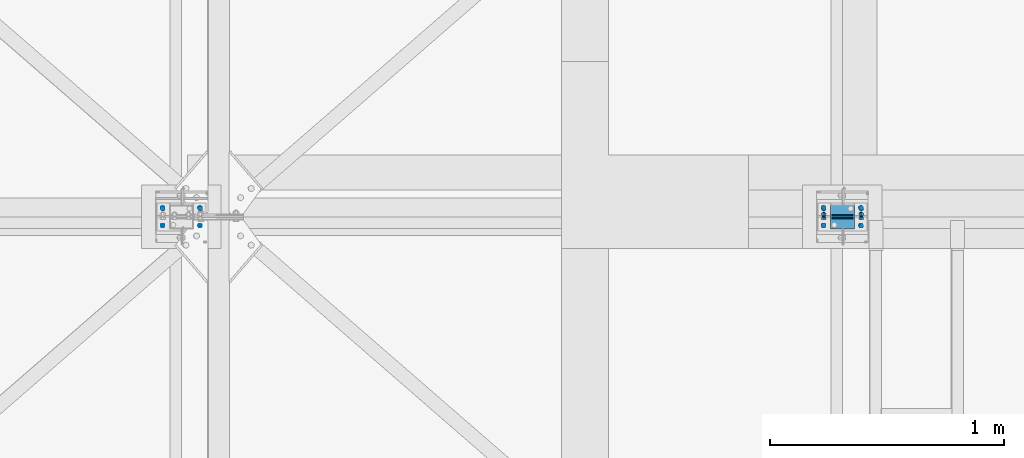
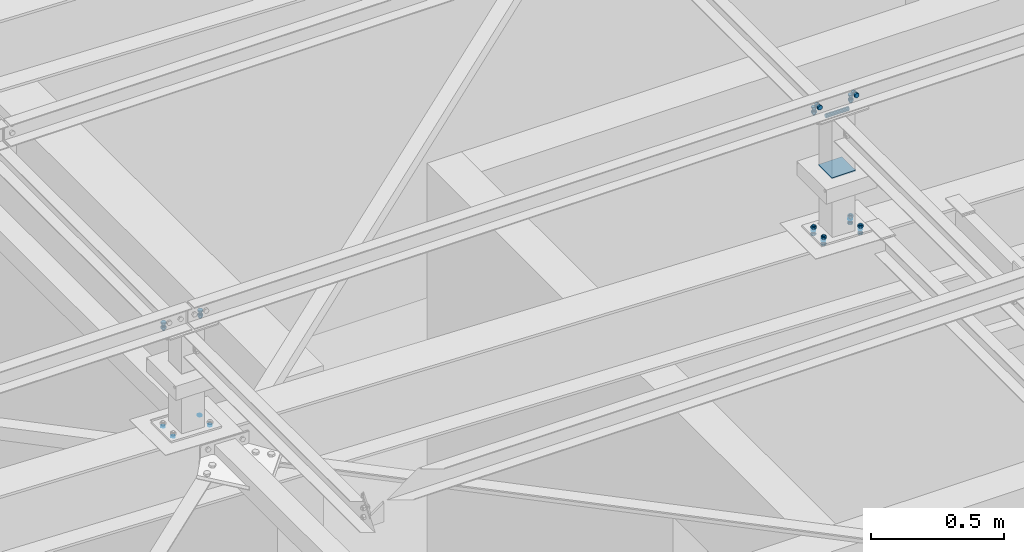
# One storey, part 244 of 3134: 8 mechanical fasteners, 6 elements without a shape of their own.
"""IFC2X3 building model written with IfcOpenShell, lengths in millimetres."""

from ifc_helpers import new_model, si_unit, frame, origin_with_axes, place, context, subcontext, project, spatial, faceted_brep, source, transform, mapped, material, type_object, element, aggregate, save


model = new_model("IFC2X3")

# Units and contexts
model_context = context("Model", 3, precision=1e-05, world=origin_with_axes())
body_context = subcontext(model_context, "Body", "Model", "MODEL_VIEW")
ifc_project = project(units=[si_unit("LENGTHUNIT", "METRE", prefix="MILLI"), si_unit("AREAUNIT", "SQUARE_METRE"), si_unit("VOLUMEUNIT", "CUBIC_METRE"), si_unit("MASSUNIT", "GRAM", prefix="KILO"), si_unit("TIMEUNIT", "SECOND"), si_unit("PLANEANGLEUNIT", "RADIAN"), si_unit("SOLIDANGLEUNIT", "STERADIAN"), si_unit("THERMODYNAMICTEMPERATUREUNIT", "DEGREE_CELSIUS"), si_unit("LUMINOUSINTENSITYUNIT", "LUMEN")], contexts=[model_context])

# Site, building, storey
site_placement = place(None, origin_with_axes())
site = spatial("IfcSite", under=ifc_project, at=site_placement, CompositionType="ELEMENT")
building_placement = place(site_placement, origin_with_axes())
building = spatial("IfcBuilding", under=site, at=building_placement, Name="Undefined", CompositionType="ELEMENT")
storey_placement = place(building_placement, origin_with_axes())
storey = spatial("IfcBuildingStorey", under=building, at=storey_placement, Name="Undefined", CompositionType="ELEMENT", Elevation=0.0)

# Assembly, mechanical fastener
assembly_1_placement = place(storey_placement, origin_with_axes())
assembly_1 = element("IfcElementAssembly", 1, at=assembly_1_placement, inside=storey, AssemblyPlace="NOTDEFINED", PredefinedType="RIGID_FRAME")
ifc_material_1 = material(Name="8.8")
mechanical_fastener_type = type_object("IfcMechanicalFastenerType", Name="Bolt assembly")
shared_shape_1 = source(origin_with_axes(), body_context, "Body", "Brep", [
    faceted_brep([(10.9696551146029, -14.0, 0.0), (5.48482755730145, -14.0, 9.5), (-5.48482755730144, -14.0, 9.5), (-10.9696551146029, -14.0, 1.34339530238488e-15), (-5.48482755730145, -14.0, -9.5), (5.48482755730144, -14.0, -9.50000000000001), (5.48482755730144, -6.0, -9.50000000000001), (-5.48482755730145, -6.0, -9.5), (-10.9696551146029, -6.0, 1.34339530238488e-15), (-5.48482755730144, -6.0, 9.5), (5.48482755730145, -6.0, 9.5), (10.9696551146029, -6.0, 0.0), (6.0, -6.0, 0.0), (5.19615242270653, -6.0, 3.00000000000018), (2.99999999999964, -6.0, 5.19615242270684), (-6.21801588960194e-13, -6.0, 6.0), (-3.00000000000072, -6.0, 5.19615242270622), (-5.19615242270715, -6.0, 2.9999999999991), (-6.0, -6.0, -1.24360317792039e-12), (-5.19615242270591, -6.0, -3.00000000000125), (-2.99999999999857, -6.0, -5.19615242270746), (1.85874342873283e-12, -6.0, -6.0), (3.00000000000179, -6.0, -5.1961524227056), (5.19615242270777, -6.0, -2.99999999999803), (5.19615242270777, 24.0, -2.99999999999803), (3.00000000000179, 24.0, -5.1961524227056), (1.85874342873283e-12, 24.0, -6.0), (-2.99999999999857, 24.0, -5.19615242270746), (-5.19615242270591, 24.0, -3.00000000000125), (-6.0, 24.0, -1.24360317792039e-12), (-5.19615242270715, 24.0, 2.9999999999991), (-3.00000000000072, 24.0, 5.19615242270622), (-6.21801588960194e-13, 24.0, 6.0), (2.99999999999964, 24.0, 5.19615242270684), (5.19615242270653, 24.0, 3.00000000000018), (6.0, 24.0, 0.0), (10.9696551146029, 6.00000000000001, 0.0), (5.48482755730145, 6.00000000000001, 9.5), (-5.48482755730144, 6.00000000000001, 9.5), (-10.9696551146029, 6.00000000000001, 1.34339530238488e-15), (-5.48482755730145, 6.00000000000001, -9.5), (5.48482755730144, 6.00000000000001, -9.50000000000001), (5.48482755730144, 16.0, -9.50000000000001), (-5.48482755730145, 16.0, -9.5), (-10.9696551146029, 16.0, 1.34339530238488e-15), (-5.48482755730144, 16.0, 9.5), (5.48482755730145, 16.0, 9.5), (10.9696551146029, 16.0, 0.0)], [[[0, 1, 2, 3, 4, 5]], [[6, 7, 8, 9, 10, 11]], [[0, 11, 10, 1]], [[1, 10, 9, 2]], [[2, 9, 8, 3]], [[3, 8, 7, 4]], [[4, 7, 6, 5]], [[5, 6, 11, 0]], [[12, 13, 14, 15, 16, 17, 18, 19, 20, 21, 22, 23]], [[24, 25, 26, 27, 28, 29, 30, 31, 32, 33, 34, 35]], [[12, 35, 34, 13]], [[13, 34, 33, 14]], [[14, 33, 32, 15]], [[15, 32, 31, 16]], [[16, 31, 30, 17]], [[17, 30, 29, 18]], [[18, 29, 28, 19]], [[19, 28, 27, 20]], [[20, 27, 26, 21]], [[21, 26, 25, 22]], [[22, 25, 24, 23]], [[23, 24, 35, 12]], [[36, 37, 38, 39, 40, 41]], [[42, 43, 44, 45, 46, 47]], [[36, 47, 46, 37]], [[37, 46, 45, 38]], [[38, 45, 44, 39]], [[39, 44, 43, 40]], [[40, 43, 42, 41]], [[41, 42, 47, 36]]]),
    faceted_brep([(7.0, -0.1, 0.0), (6.06217782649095, -0.1, 3.50000000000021), (3.49999999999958, -0.1, 6.06217782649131), (-7.25435187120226e-13, -0.1, 7.0), (-3.50000000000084, -0.1, 6.06217782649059), (-6.06217782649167, -0.1, 3.49999999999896), (-7.0, -0.1, -1.45087037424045e-12), (-6.06217782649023, -0.1, -3.50000000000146), (-3.49999999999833, -0.1, -6.06217782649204), (2.1685340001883e-12, -0.1, -7.0), (3.50000000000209, -0.1, -6.06217782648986), (6.0621778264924, -0.1, -3.4999999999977), (6.0621778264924, 6.00000000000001, -3.4999999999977), (3.50000000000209, 6.00000000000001, -6.06217782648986), (2.1685340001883e-12, 6.00000000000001, -7.0), (-3.49999999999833, 6.00000000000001, -6.06217782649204), (-6.06217782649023, 6.00000000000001, -3.50000000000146), (-7.0, 6.00000000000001, -1.45087037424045e-12), (-6.06217782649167, 6.00000000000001, 3.49999999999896), (-3.50000000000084, 6.00000000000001, 6.06217782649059), (-7.25435187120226e-13, 6.00000000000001, 7.0), (3.49999999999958, 6.00000000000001, 6.06217782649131), (6.06217782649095, 6.00000000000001, 3.50000000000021), (7.0, 6.00000000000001, 0.0), (7.0, -5.9, 0.0), (6.06217782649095, -5.9, 3.50000000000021), (3.49999999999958, -5.9, 6.06217782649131), (-7.25435187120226e-13, -5.9, 7.0), (-3.50000000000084, -5.9, 6.06217782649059), (-6.06217782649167, -5.9, 3.49999999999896), (-7.0, -5.9, -1.45087037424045e-12), (-6.06217782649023, -5.9, -3.50000000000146), (-3.49999999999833, -5.9, -6.06217782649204), (2.1685340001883e-12, -5.9, -7.0), (3.50000000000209, -5.9, -6.06217782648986), (6.0621778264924, -5.9, -3.4999999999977), (6.0621778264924, 0.0999999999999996, -3.4999999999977), (3.50000000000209, 0.0999999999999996, -6.06217782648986), (2.1685340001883e-12, 0.0999999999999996, -7.0), (-3.49999999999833, 0.0999999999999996, -6.06217782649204), (-6.06217782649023, 0.0999999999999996, -3.50000000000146), (-7.0, 0.0999999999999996, -1.45087037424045e-12), (-6.06217782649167, 0.0999999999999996, 3.49999999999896), (-3.50000000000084, 0.0999999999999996, 6.06217782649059), (-7.25435187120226e-13, 0.0999999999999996, 7.0), (3.49999999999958, 0.0999999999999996, 6.06217782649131), (6.06217782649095, 0.0999999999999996, 3.50000000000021), (7.0, 0.0999999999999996, 0.0)], [[[0, 1, 2, 3, 4, 5, 6, 7, 8, 9, 10, 11]], [[12, 13, 14, 15, 16, 17, 18, 19, 20, 21, 22, 23]], [[0, 23, 22, 1]], [[1, 22, 21, 2]], [[2, 21, 20, 3]], [[3, 20, 19, 4]], [[4, 19, 18, 5]], [[5, 18, 17, 6]], [[6, 17, 16, 7]], [[7, 16, 15, 8]], [[8, 15, 14, 9]], [[9, 14, 13, 10]], [[10, 13, 12, 11]], [[11, 12, 23, 0]], [[24, 25, 26, 27, 28, 29, 30, 31, 32, 33, 34, 35]], [[36, 37, 38, 39, 40, 41, 42, 43, 44, 45, 46, 47]], [[24, 47, 46, 25]], [[25, 46, 45, 26]], [[26, 45, 44, 27]], [[27, 44, 43, 28]], [[28, 43, 42, 29]], [[29, 42, 41, 30]], [[30, 41, 40, 31]], [[31, 40, 39, 32]], [[32, 39, 38, 33]], [[33, 38, 37, 34]], [[34, 37, 36, 35]], [[35, 36, 47, 24]]]),
])
mechanical_fastener_1_placement = place(assembly_1_placement, frame((26019.0, 61020.0, 10865.0), z_axis=(1.0, 0.0, 0.0), x_axis=(0.0, -1.0, 0.0)))
mechanical_fastener_1 = element("IfcMechanicalFastener", 2, at=mechanical_fastener_1_placement, type_object=mechanical_fastener_type, material=ifc_material_1, Name="Bolt assembly", NominalDiameter=12.0, NominalLength=30.0, context=body_context, shape_type="MappedRepresentation", body=[
    mapped(shared_shape_1, transform((0.0, -5.32963895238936e-10, -79.9999999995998))),
    mapped(shared_shape_1, transform((0.0, 5.3114490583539e-10, 79.9999999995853))),
])
aggregate(assembly_1, [mechanical_fastener_1])

assembly_2_placement = place(storey_placement, origin_with_axes())
assembly_2 = element("IfcElementAssembly", 3, at=assembly_2_placement, inside=storey, AssemblyPlace="NOTDEFINED", PredefinedType="RIGID_FRAME")
mechanical_fastener_2_placement = place(assembly_2_placement, frame((28847.0, 61020.0, 10865.0), z_axis=(1.0, 0.0, 0.0), x_axis=(0.0, -1.0, 0.0)))
mechanical_fastener_2 = element("IfcMechanicalFastener", 4, at=mechanical_fastener_2_placement, type_object=mechanical_fastener_type, material=ifc_material_1, Name="Bolt assembly", NominalDiameter=12.0, NominalLength=30.0, context=body_context, shape_type="MappedRepresentation", body=[
    mapped(shared_shape_1, transform((0.0, -5.32963895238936e-10, -79.9999999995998))),
    mapped(shared_shape_1, transform((0.0, 5.3114490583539e-10, 79.9999999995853))),
])

assembly_3_placement = place(storey_placement, origin_with_axes())
assembly_3 = element("IfcElementAssembly", 5, at=assembly_3_placement, inside=storey, AssemblyPlace="NOTDEFINED", PredefinedType="RIGID_FRAME")
shared_shape_2 = source(origin_with_axes(), body_context, "Body", "Brep", [
    faceted_brep([(7.0, 13.0000253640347, 0.0), (6.06217782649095, 13.0000253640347, 3.50000000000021), (3.49999999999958, 13.0000253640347, 6.06217782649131), (-7.25435187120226e-13, 13.0000253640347, 7.0), (-3.50000000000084, 13.0000253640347, 6.06217782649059), (-6.06217782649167, 13.0000253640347, 3.49999999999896), (-7.0, 13.0000253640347, -1.45087037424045e-12), (-6.06217782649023, 13.0000253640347, -3.50000000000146), (-3.49999999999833, 13.0000253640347, -6.06217782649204), (2.1685340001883e-12, 13.0000253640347, -7.0), (3.50000000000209, 13.0000253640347, -6.06217782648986), (6.0621778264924, 13.0000253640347, -3.4999999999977), (6.0621778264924, 15.0999999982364, -3.4999999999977), (3.50000000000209, 15.0999999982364, -6.06217782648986), (2.1685340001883e-12, 15.0999999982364, -7.0), (-3.49999999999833, 15.0999999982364, -6.06217782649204), (-6.06217782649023, 15.0999999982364, -3.50000000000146), (-7.0, 15.0999999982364, -1.45087037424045e-12), (-6.06217782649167, 15.0999999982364, 3.49999999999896), (-3.50000000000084, 15.0999999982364, 6.06217782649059), (-7.25435187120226e-13, 15.0999999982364, 7.0), (3.49999999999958, 15.0999999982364, 6.06217782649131), (6.06217782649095, 15.0999999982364, 3.50000000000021), (7.0, 15.0999999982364, 0.0)], [[[0, 1, 2, 3, 4, 5, 6, 7, 8, 9, 10, 11]], [[12, 13, 14, 15, 16, 17, 18, 19, 20, 21, 22, 23]], [[0, 23, 22, 1]], [[1, 22, 21, 2]], [[2, 21, 20, 3]], [[3, 20, 19, 4]], [[4, 19, 18, 5]], [[5, 18, 17, 6]], [[6, 17, 16, 7]], [[7, 16, 15, 8]], [[8, 15, 14, 9]], [[9, 14, 13, 10]], [[10, 13, 12, 11]], [[11, 12, 23, 0]]]),
])
mechanical_fastener_3_placement = place(assembly_3_placement, frame((26018.2251187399, 61023.0, 10379.5372055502), z_axis=(-0.99951962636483, 0.0, 0.0309922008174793), x_axis=(0.0, -1.0, 0.0)))
mechanical_fastener_3 = element("IfcMechanicalFastener", 6, at=mechanical_fastener_3_placement, type_object=mechanical_fastener_type, material=ifc_material_1, Name="Bolt assembly", NominalDiameter=12.0, NominalLength=2.0, context=body_context, shape_type="MappedRepresentation", body=[
    mapped(shared_shape_2, transform((0.0, -5.32963895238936e-10, -79.9999999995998))),
    mapped(shared_shape_2, transform((76.0, -5.32963895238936e-10, -79.9999999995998))),
    mapped(shared_shape_2, transform((0.0, 5.3114490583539e-10, 79.9999999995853))),
    mapped(shared_shape_2, transform((76.0, 5.3114490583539e-10, 79.9999999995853))),
])
aggregate(assembly_3, [mechanical_fastener_3])

assembly_4_placement = place(storey_placement, origin_with_axes())
assembly_4 = element("IfcElementAssembly", 7, at=assembly_4_placement, inside=storey, AssemblyPlace="NOTDEFINED", PredefinedType="RIGID_FRAME")
mechanical_fastener_4_placement = place(assembly_4_placement, frame((28846.2851187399, 61023.0, 10291.8572055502), z_axis=(-0.99951962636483, 0.0, 0.0309922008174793), x_axis=(0.0, -1.0, 0.0)))
mechanical_fastener_4 = element("IfcMechanicalFastener", 8, at=mechanical_fastener_4_placement, type_object=mechanical_fastener_type, material=ifc_material_1, Name="Bolt assembly", NominalDiameter=12.0, NominalLength=2.0, context=body_context, shape_type="MappedRepresentation", body=[
    mapped(shared_shape_2, transform((0.0, -5.32963895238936e-10, -79.9999999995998))),
    mapped(shared_shape_2, transform((76.0, -5.32963895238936e-10, -79.9999999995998))),
    mapped(shared_shape_2, transform((0.0, 5.3114490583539e-10, 79.9999999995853))),
    mapped(shared_shape_2, transform((76.0, 5.3114490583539e-10, 79.9999999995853))),
])
aggregate(assembly_4, [mechanical_fastener_4])

# Assembly, mechanical fasteners
assembly_5_placement = place(storey_placement, origin_with_axes())
assembly_5 = element("IfcElementAssembly", 9, at=assembly_5_placement, inside=storey, AssemblyPlace="NOTDEFINED", PredefinedType="RIGID_FRAME")
shared_shape_3 = source(origin_with_axes(), body_context, "Body", "Brep", [
    faceted_brep([(9.0, -50.0, 0.0), (7.79422863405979, -50.0, 4.50000000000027), (4.49999999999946, -50.0, 7.79422863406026), (-9.3270238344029e-13, -50.0, 9.0), (-4.50000000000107, -50.0, 7.79422863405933), (-7.79422863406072, -50.0, 4.49999999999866), (-9.0, -50.0, -1.86540476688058e-12), (-7.79422863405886, -50.0, -4.50000000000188), (-4.49999999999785, -50.0, -7.79422863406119), (2.78811514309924e-12, -50.0, -9.0), (4.50000000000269, -50.0, -7.7942286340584), (7.79422863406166, -50.0, -4.49999999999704), (7.79422863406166, 50.1, -4.49999999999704), (4.50000000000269, 50.1, -7.7942286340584), (2.78811514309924e-12, 50.1, -9.0), (-4.49999999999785, 50.1, -7.79422863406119), (-7.79422863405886, 50.1, -4.50000000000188), (-9.0, 50.1, -1.86540476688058e-12), (-7.79422863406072, 50.1, 4.49999999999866), (-4.50000000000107, 50.1, 7.79422863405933), (-9.3270238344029e-13, 50.1, 9.0), (4.49999999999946, 50.1, 7.79422863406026), (7.79422863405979, 50.1, 4.50000000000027), (9.0, 50.1, 0.0)], [[[0, 1, 2, 3, 4, 5, 6, 7, 8, 9, 10, 11]], [[12, 13, 14, 15, 16, 17, 18, 19, 20, 21, 22, 23]], [[0, 23, 22, 1]], [[1, 22, 21, 2]], [[2, 21, 20, 3]], [[3, 20, 19, 4]], [[4, 19, 18, 5]], [[5, 18, 17, 6]], [[6, 17, 16, 7]], [[7, 16, 15, 8]], [[8, 15, 14, 9]], [[9, 14, 13, 10]], [[10, 13, 12, 11]], [[11, 12, 23, 0]]]),
])
mechanical_fastener_5_placement = place(assembly_5_placement, frame((28847.0, 60985.0, 10845.0), z_axis=(0.0, 1.0, 0.0), x_axis=(0.0, 0.0, 1.0)))
mechanical_fastener_5 = element("IfcMechanicalFastener", 10, at=mechanical_fastener_5_placement, type_object=mechanical_fastener_type, material=ifc_material_1, Name="Bolt assembly", NominalDiameter=16.0, NominalLength=100.0, context=body_context, shape_type="MappedRepresentation", body=[
    mapped(shared_shape_3, transform((0.0, 0.0, 0.0))),
])
ifc_material_2 = material(Name="6.8")
shared_shape_4 = source(origin_with_axes(), body_context, "Body", "Brep", [
    faceted_brep([(51.5, 1.36424205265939e-12, 50.0), (51.3858192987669, 1.36424205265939e-12, 50.5740251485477), (51.0606601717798, 1.36424205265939e-12, 51.0606601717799), (50.5740251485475, 1.36424205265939e-12, 51.385819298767), (-50.0000000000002, 1.36424205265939e-12, 51.5), (-50.7500000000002, 1.36424205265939e-12, 51.2990381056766), (-51.2990381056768, 1.36424205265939e-12, 50.7499999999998), (-51.5, 1.36424205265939e-12, 49.9999999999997), (-51.5, 1.36424205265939e-12, -50.0000000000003), (-51.2990381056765, 1.36424205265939e-12, -50.7500000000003), (-50.7499999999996, 1.36424205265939e-12, -51.2990381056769), (-49.9999999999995, 1.36424205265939e-12, -51.5), (50.0000000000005, 1.36424205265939e-12, -51.5), (50.7500000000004, 1.36424205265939e-12, -51.2990381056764), (51.2990381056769, 1.36424205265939e-12, -50.7499999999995), (51.5, 1.36424205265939e-12, -49.9999999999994), (51.5, 5.10000000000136, -49.9999999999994), (51.2990381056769, 5.10000000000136, -50.7499999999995), (50.7500000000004, 5.10000000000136, -51.2990381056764), (50.0000000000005, 5.10000000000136, -51.5), (-49.9999999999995, 5.10000000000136, -51.5), (-50.7499999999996, 5.10000000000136, -51.2990381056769), (-51.2990381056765, 5.10000000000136, -50.7500000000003), (-51.5, 5.10000000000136, -50.0000000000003), (-51.5, 5.10000000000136, 49.9999999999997), (-51.2990381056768, 5.10000000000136, 50.7499999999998), (-50.7500000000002, 5.10000000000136, 51.2990381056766), (-50.0000000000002, 5.10000000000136, 51.5), (50.5740251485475, 5.10000000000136, 51.385819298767), (51.0606601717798, 5.10000000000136, 51.0606601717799), (51.3858192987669, 5.10000000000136, 50.5740251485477), (51.5, 5.10000000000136, 50.0)], [[[0, 1, 2, 3, 4, 5, 6, 7, 8, 9, 10, 11, 12, 13, 14, 15]], [[16, 17, 18, 19, 20, 21, 22, 23, 24, 25, 26, 27, 28, 29, 30, 31]], [[0, 31, 30, 1]], [[1, 30, 29, 2]], [[2, 29, 28, 3]], [[3, 28, 27, 4]], [[4, 27, 26, 5]], [[5, 26, 25, 6]], [[6, 25, 24, 7]], [[7, 24, 23, 8]], [[8, 23, 22, 9]], [[9, 22, 21, 10]], [[10, 21, 20, 11]], [[11, 20, 19, 12]], [[12, 19, 18, 13]], [[13, 18, 17, 14]], [[14, 17, 16, 15]], [[15, 16, 31, 0]]]),
])
mechanical_fastener_6_placement = place(assembly_5_placement, frame((28847.0, 60985.0, 10591.54), z_axis=(0.0, -1.0, 0.0), x_axis=(-1.0, 0.0, 0.0)))
mechanical_fastener_6 = element("IfcMechanicalFastener", 11, at=mechanical_fastener_6_placement, type_object=mechanical_fastener_type, material=ifc_material_2, Name="Bolt assembly", NominalDiameter=10.0, NominalLength=5.0, context=body_context, shape_type="MappedRepresentation", body=[
    mapped(shared_shape_4, transform((0.0, 0.0, 0.0))),
])
aggregate(assembly_5, [mechanical_fastener_5, mechanical_fastener_6])

# Mechanical fastener
shared_shape_5 = source(origin_with_axes(), body_context, "Body", "Brep", [
    faceted_brep([(10.9696551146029, -12.0, 0.0), (5.48482755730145, -12.0, 9.5), (-5.48482755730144, -12.0, 9.5), (-10.9696551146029, -12.0, 1.34339530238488e-15), (-5.48482755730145, -12.0, -9.5), (5.48482755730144, -12.0, -9.50000000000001), (5.48482755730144, -4.0, -9.50000000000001), (-5.48482755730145, -4.0, -9.5), (-10.9696551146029, -4.0, 1.34339530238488e-15), (-5.48482755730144, -4.0, 9.5), (5.48482755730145, -4.0, 9.5), (10.9696551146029, -4.0, 0.0), (6.0, -4.0, 0.0), (5.19615242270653, -4.0, 3.00000000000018), (2.99999999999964, -4.0, 5.19615242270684), (-6.21801588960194e-13, -4.0, 6.0), (-3.00000000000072, -4.0, 5.19615242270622), (-5.19615242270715, -4.0, 2.9999999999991), (-6.0, -4.0, -1.24360317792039e-12), (-5.19615242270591, -4.0, -3.00000000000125), (-2.99999999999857, -4.0, -5.19615242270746), (1.85874342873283e-12, -4.0, -6.0), (3.00000000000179, -4.0, -5.1961524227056), (5.19615242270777, -4.0, -2.99999999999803), (5.19615242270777, 21.0, -2.99999999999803), (3.00000000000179, 21.0, -5.1961524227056), (1.85874342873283e-12, 21.0, -6.0), (-2.99999999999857, 21.0, -5.19615242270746), (-5.19615242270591, 21.0, -3.00000000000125), (-6.0, 21.0, -1.24360317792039e-12), (-5.19615242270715, 21.0, 2.9999999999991), (-3.00000000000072, 21.0, 5.19615242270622), (-6.21801588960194e-13, 21.0, 6.0), (2.99999999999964, 21.0, 5.19615242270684), (5.19615242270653, 21.0, 3.00000000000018), (6.0, 21.0, 0.0), (10.9696551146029, 6.00000000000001, 0.0), (5.48482755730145, 6.00000000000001, 9.5), (-5.48482755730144, 6.00000000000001, 9.5), (-10.9696551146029, 6.00000000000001, 1.34339530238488e-15), (-5.48482755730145, 6.00000000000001, -9.5), (5.48482755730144, 6.00000000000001, -9.50000000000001), (5.48482755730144, 16.0, -9.50000000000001), (-5.48482755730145, 16.0, -9.5), (-10.9696551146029, 16.0, 1.34339530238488e-15), (-5.48482755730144, 16.0, 9.5), (5.48482755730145, 16.0, 9.5), (10.9696551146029, 16.0, 0.0)], [[[0, 1, 2, 3, 4, 5]], [[6, 7, 8, 9, 10, 11]], [[0, 11, 10, 1]], [[1, 10, 9, 2]], [[2, 9, 8, 3]], [[3, 8, 7, 4]], [[4, 7, 6, 5]], [[5, 6, 11, 0]], [[12, 13, 14, 15, 16, 17, 18, 19, 20, 21, 22, 23]], [[24, 25, 26, 27, 28, 29, 30, 31, 32, 33, 34, 35]], [[12, 35, 34, 13]], [[13, 34, 33, 14]], [[14, 33, 32, 15]], [[15, 32, 31, 16]], [[16, 31, 30, 17]], [[17, 30, 29, 18]], [[18, 29, 28, 19]], [[19, 28, 27, 20]], [[20, 27, 26, 21]], [[21, 26, 25, 22]], [[22, 25, 24, 23]], [[23, 24, 35, 12]], [[36, 37, 38, 39, 40, 41]], [[42, 43, 44, 45, 46, 47]], [[36, 47, 46, 37]], [[37, 46, 45, 38]], [[38, 45, 44, 39]], [[39, 44, 43, 40]], [[40, 43, 42, 41]], [[41, 42, 47, 36]]]),
    faceted_brep([(7.0, -3.9, 0.0), (6.06217782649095, -3.9, 3.50000000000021), (3.49999999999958, -3.9, 6.06217782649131), (-7.25435187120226e-13, -3.9, 7.0), (-3.50000000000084, -3.9, 6.06217782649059), (-6.06217782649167, -3.9, 3.49999999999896), (-7.0, -3.9, -1.45087037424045e-12), (-6.06217782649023, -3.9, -3.50000000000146), (-3.49999999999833, -3.9, -6.06217782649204), (2.1685340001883e-12, -3.9, -7.0), (3.50000000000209, -3.9, -6.06217782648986), (6.0621778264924, -3.9, -3.4999999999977), (6.0621778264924, 0.0999999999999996, -3.4999999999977), (3.50000000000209, 0.0999999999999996, -6.06217782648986), (2.1685340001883e-12, 0.0999999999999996, -7.0), (-3.49999999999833, 0.0999999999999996, -6.06217782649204), (-6.06217782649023, 0.0999999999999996, -3.50000000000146), (-7.0, 0.0999999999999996, -1.45087037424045e-12), (-6.06217782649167, 0.0999999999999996, 3.49999999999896), (-3.50000000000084, 0.0999999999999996, 6.06217782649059), (-7.25435187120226e-13, 0.0999999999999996, 7.0), (3.49999999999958, 0.0999999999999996, 6.06217782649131), (6.06217782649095, 0.0999999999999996, 3.50000000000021), (7.0, 0.0999999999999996, 0.0), (7.0, -0.1, 0.0), (6.06217782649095, -0.1, 3.50000000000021), (3.49999999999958, -0.1, 6.06217782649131), (-7.25435187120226e-13, -0.1, 7.0), (-3.50000000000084, -0.1, 6.06217782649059), (-6.06217782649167, -0.1, 3.49999999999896), (-7.0, -0.1, -1.45087037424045e-12), (-6.06217782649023, -0.1, -3.50000000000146), (-3.49999999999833, -0.1, -6.06217782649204), (2.1685340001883e-12, -0.1, -7.0), (3.50000000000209, -0.1, -6.06217782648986), (6.0621778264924, -0.1, -3.4999999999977), (6.0621778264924, 6.00000000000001, -3.4999999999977), (3.50000000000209, 6.00000000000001, -6.06217782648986), (2.1685340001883e-12, 6.00000000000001, -7.0), (-3.49999999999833, 6.00000000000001, -6.06217782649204), (-6.06217782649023, 6.00000000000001, -3.50000000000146), (-7.0, 6.00000000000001, -1.45087037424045e-12), (-6.06217782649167, 6.00000000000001, 3.49999999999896), (-3.50000000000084, 6.00000000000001, 6.06217782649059), (-7.25435187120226e-13, 6.00000000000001, 7.0), (3.49999999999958, 6.00000000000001, 6.06217782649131), (6.06217782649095, 6.00000000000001, 3.50000000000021), (7.0, 6.00000000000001, 0.0)], [[[0, 1, 2, 3, 4, 5, 6, 7, 8, 9, 10, 11]], [[12, 13, 14, 15, 16, 17, 18, 19, 20, 21, 22, 23]], [[0, 23, 22, 1]], [[1, 22, 21, 2]], [[2, 21, 20, 3]], [[3, 20, 19, 4]], [[4, 19, 18, 5]], [[5, 18, 17, 6]], [[6, 17, 16, 7]], [[7, 16, 15, 8]], [[8, 15, 14, 9]], [[9, 14, 13, 10]], [[10, 13, 12, 11]], [[11, 12, 23, 0]], [[24, 25, 26, 27, 28, 29, 30, 31, 32, 33, 34, 35]], [[36, 37, 38, 39, 40, 41, 42, 43, 44, 45, 46, 47]], [[24, 47, 46, 25]], [[25, 46, 45, 26]], [[26, 45, 44, 27]], [[27, 44, 43, 28]], [[28, 43, 42, 29]], [[29, 42, 41, 30]], [[30, 41, 40, 31]], [[31, 40, 39, 32]], [[32, 39, 38, 33]], [[33, 38, 37, 34]], [[34, 37, 36, 35]], [[35, 36, 47, 24]]]),
])
mechanical_fastener_7_placement = place(assembly_2_placement, frame((28847.0, 60985.0, 10900.0), z_axis=(1.0, 0.0, 0.0), x_axis=(0.0, 0.0, -1.0)))
mechanical_fastener_7 = element("IfcMechanicalFastener", 12, at=mechanical_fastener_7_placement, type_object=mechanical_fastener_type, material=ifc_material_1, Name="Bolt assembly", NominalDiameter=12.0, NominalLength=25.0, context=body_context, shape_type="MappedRepresentation", body=[
    mapped(shared_shape_5, transform((0.0, -5.32963895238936e-10, -79.9999999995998))),
    mapped(shared_shape_5, transform((0.0, 5.3114490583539e-10, 79.9999999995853))),
])

aggregate(assembly_2, [mechanical_fastener_7, mechanical_fastener_2])

# Assembly, mechanical fastener
assembly_6_placement = place(storey_placement, origin_with_axes())
assembly_6 = element("IfcElementAssembly", 13, at=assembly_6_placement, inside=storey, Name="IPE330", AssemblyPlace="NOTDEFINED", PredefinedType="RIGID_FRAME")
shared_shape_6 = source(origin_with_axes(), body_context, "Body", "Brep", [
    faceted_brep([(10.9696551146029, -6.4876179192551, 0.0), (5.48482755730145, -6.4876179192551, 9.5), (-5.48482755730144, -6.4876179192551, 9.5), (-10.9696551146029, -6.4876179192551, 1.34339530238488e-15), (-5.48482755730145, -6.4876179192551, -9.5), (5.48482755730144, -6.4876179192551, -9.50000000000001), (5.48482755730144, 1.5123820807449, -9.50000000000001), (-5.48482755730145, 1.5123820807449, -9.5), (-10.9696551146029, 1.5123820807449, 1.34339530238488e-15), (-5.48482755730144, 1.5123820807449, 9.5), (5.48482755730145, 1.5123820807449, 9.5), (10.9696551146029, 1.5123820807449, 0.0), (6.0, 1.5123820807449, 0.0), (5.19615242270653, 1.5123820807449, 3.00000000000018), (2.99999999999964, 1.5123820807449, 5.19615242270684), (-6.21801588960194e-13, 1.5123820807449, 6.0), (-3.00000000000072, 1.5123820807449, 5.19615242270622), (-5.19615242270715, 1.5123820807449, 2.9999999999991), (-6.0, 1.5123820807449, -1.24360317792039e-12), (-5.19615242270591, 1.5123820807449, -3.00000000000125), (-2.99999999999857, 1.5123820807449, -5.19615242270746), (1.85874342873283e-12, 1.5123820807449, -6.0), (3.00000000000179, 1.5123820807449, -5.1961524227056), (5.19615242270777, 1.5123820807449, -2.99999999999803), (5.19615242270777, 36.5123820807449, -2.99999999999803), (3.00000000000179, 36.5123820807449, -5.1961524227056), (1.85874342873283e-12, 36.5123820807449, -6.0), (-2.99999999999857, 36.5123820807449, -5.19615242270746), (-5.19615242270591, 36.5123820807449, -3.00000000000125), (-6.0, 36.5123820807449, -1.24360317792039e-12), (-5.19615242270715, 36.5123820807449, 2.9999999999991), (-3.00000000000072, 36.5123820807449, 5.19615242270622), (-6.21801588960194e-13, 36.5123820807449, 6.0), (2.99999999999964, 36.5123820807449, 5.19615242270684), (5.19615242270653, 36.5123820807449, 3.00000000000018), (6.0, 36.5123820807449, 0.0), (10.9696551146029, 23.0039050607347, 0.0), (5.48482755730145, 23.0039050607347, 9.5), (-5.48482755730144, 23.0039050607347, 9.5), (-10.9696551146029, 23.0039050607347, 1.34339530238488e-15), (-5.48482755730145, 23.0039050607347, -9.5), (5.48482755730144, 23.0039050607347, -9.50000000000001), (5.48482755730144, 33.0039050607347, -9.50000000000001), (-5.48482755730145, 33.0039050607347, -9.5), (-10.9696551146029, 33.0039050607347, 1.34339530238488e-15), (-5.48482755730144, 33.0039050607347, 9.5), (5.48482755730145, 33.0039050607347, 9.5), (10.9696551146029, 33.0039050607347, 0.0)], [[[0, 1, 2, 3, 4, 5]], [[6, 7, 8, 9, 10, 11]], [[0, 11, 10, 1]], [[1, 10, 9, 2]], [[2, 9, 8, 3]], [[3, 8, 7, 4]], [[4, 7, 6, 5]], [[5, 6, 11, 0]], [[12, 13, 14, 15, 16, 17, 18, 19, 20, 21, 22, 23]], [[24, 25, 26, 27, 28, 29, 30, 31, 32, 33, 34, 35]], [[12, 35, 34, 13]], [[13, 34, 33, 14]], [[14, 33, 32, 15]], [[15, 32, 31, 16]], [[16, 31, 30, 17]], [[17, 30, 29, 18]], [[18, 29, 28, 19]], [[19, 28, 27, 20]], [[20, 27, 26, 21]], [[21, 26, 25, 22]], [[22, 25, 24, 23]], [[23, 24, 35, 12]], [[36, 37, 38, 39, 40, 41]], [[42, 43, 44, 45, 46, 47]], [[36, 47, 46, 37]], [[37, 46, 45, 38]], [[38, 45, 44, 39]], [[39, 44, 43, 40]], [[40, 43, 42, 41]], [[41, 42, 47, 36]]]),
    faceted_brep([(7.0, 14.9039050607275, 0.0), (6.06217782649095, 14.9039050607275, 3.50000000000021), (3.49999999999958, 14.9039050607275, 6.06217782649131), (-7.25435187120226e-13, 14.9039050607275, 7.0), (-3.50000000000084, 14.9039050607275, 6.06217782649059), (-6.06217782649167, 14.9039050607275, 3.49999999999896), (-7.0, 14.9039050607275, -1.45087037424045e-12), (-6.06217782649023, 14.9039050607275, -3.50000000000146), (-3.49999999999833, 14.9039050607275, -6.06217782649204), (2.1685340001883e-12, 14.9039050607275, -7.0), (3.50000000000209, 14.9039050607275, -6.06217782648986), (6.0621778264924, 14.9039050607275, -3.4999999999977), (6.0621778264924, 23.0039050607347, -3.4999999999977), (3.50000000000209, 23.0039050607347, -6.06217782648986), (2.1685340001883e-12, 23.0039050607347, -7.0), (-3.49999999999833, 23.0039050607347, -6.06217782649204), (-6.06217782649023, 23.0039050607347, -3.50000000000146), (-7.0, 23.0039050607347, -1.45087037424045e-12), (-6.06217782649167, 23.0039050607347, 3.49999999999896), (-3.50000000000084, 23.0039050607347, 6.06217782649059), (-7.25435187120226e-13, 23.0039050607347, 7.0), (3.49999999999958, 23.0039050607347, 6.06217782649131), (6.06217782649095, 23.0039050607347, 3.50000000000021), (7.0, 23.0039050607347, 0.0), (7.0, 1.6123820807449, 0.0), (6.06217782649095, 1.6123820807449, 3.50000000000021), (3.49999999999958, 1.6123820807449, 6.06217782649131), (-7.25435187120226e-13, 1.6123820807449, 7.0), (-3.50000000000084, 1.6123820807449, 6.06217782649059), (-6.06217782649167, 1.6123820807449, 3.49999999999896), (-7.0, 1.6123820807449, -1.45087037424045e-12), (-6.06217782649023, 1.6123820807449, -3.50000000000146), (-3.49999999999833, 1.6123820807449, -6.06217782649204), (2.1685340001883e-12, 1.6123820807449, -7.0), (3.50000000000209, 1.6123820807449, -6.06217782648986), (6.0621778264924, 1.6123820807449, -3.4999999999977), (6.0621778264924, 13.1123820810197, -3.4999999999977), (3.50000000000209, 13.1123820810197, -6.06217782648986), (2.1685340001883e-12, 13.1123820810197, -7.0), (-3.49999999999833, 13.1123820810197, -6.06217782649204), (-6.06217782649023, 13.1123820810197, -3.50000000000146), (-7.0, 13.1123820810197, -1.45087037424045e-12), (-6.06217782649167, 13.1123820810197, 3.49999999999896), (-3.50000000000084, 13.1123820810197, 6.06217782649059), (-7.25435187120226e-13, 13.1123820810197, 7.0), (3.49999999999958, 13.1123820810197, 6.06217782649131), (6.06217782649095, 13.1123820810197, 3.50000000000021), (7.0, 13.1123820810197, 0.0)], [[[0, 1, 2, 3, 4, 5, 6, 7, 8, 9, 10, 11]], [[12, 13, 14, 15, 16, 17, 18, 19, 20, 21, 22, 23]], [[0, 23, 22, 1]], [[1, 22, 21, 2]], [[2, 21, 20, 3]], [[3, 20, 19, 4]], [[4, 19, 18, 5]], [[5, 18, 17, 6]], [[6, 17, 16, 7]], [[7, 16, 15, 8]], [[8, 15, 14, 9]], [[9, 14, 13, 10]], [[10, 13, 12, 11]], [[11, 12, 23, 0]], [[24, 25, 26, 27, 28, 29, 30, 31, 32, 33, 34, 35]], [[36, 37, 38, 39, 40, 41, 42, 43, 44, 45, 46, 47]], [[24, 47, 46, 25]], [[25, 46, 45, 26]], [[26, 45, 44, 27]], [[27, 44, 43, 28]], [[28, 43, 42, 29]], [[29, 42, 41, 30]], [[30, 41, 40, 31]], [[31, 40, 39, 32]], [[32, 39, 38, 33]], [[33, 38, 37, 34]], [[34, 37, 36, 35]], [[35, 36, 47, 24]]]),
])
mechanical_fastener_8_placement = place(assembly_6_placement, frame((28846.2851187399, 61023.0, 10291.8572055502), z_axis=(-0.99951962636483, 0.0, 0.0309922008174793), x_axis=(0.0, -1.0, 0.0)))
mechanical_fastener_8 = element("IfcMechanicalFastener", 14, at=mechanical_fastener_8_placement, type_object=mechanical_fastener_type, material=ifc_material_1, Name="Bolt assembly", NominalDiameter=12.0, NominalLength=35.0, context=body_context, shape_type="MappedRepresentation", body=[
    mapped(shared_shape_6, transform((0.0, -5.32963895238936e-10, -79.9999999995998))),
    mapped(shared_shape_6, transform((76.0, -5.32963895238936e-10, -79.9999999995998))),
    mapped(shared_shape_6, transform((0.0, 5.3114490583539e-10, 79.9999999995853))),
    mapped(shared_shape_6, transform((76.0, 5.3114490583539e-10, 79.9999999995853))),
])
aggregate(assembly_6, [mechanical_fastener_8])

save(model, "model.ifc")
